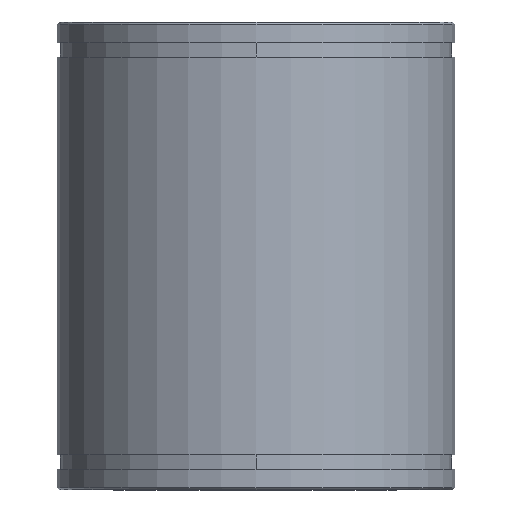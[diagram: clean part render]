
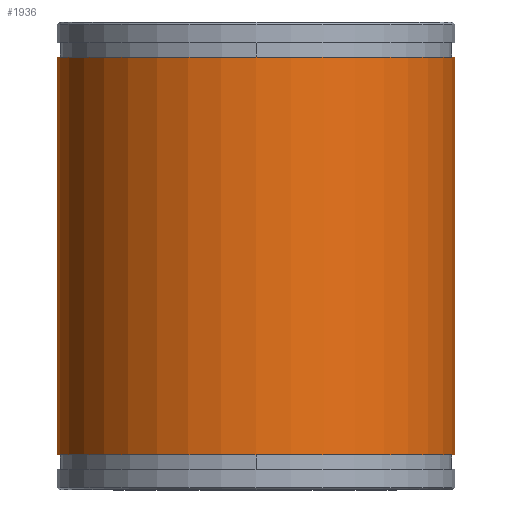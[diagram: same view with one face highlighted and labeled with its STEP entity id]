
A CAD part, front view. The second image highlights one B-rep face of the part: STEP entity #1936.
In plain terms, the highlighted cylindrical face has radius 42.5 mm (diameter 85 mm), a partial arc.
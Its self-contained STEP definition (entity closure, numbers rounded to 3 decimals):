
#333=CARTESIAN_POINT('',(0.,0.,7.5));
#334=DIRECTION('',(0.,0.,-1.));
#335=DIRECTION('',(1.,0.,0.));
#336=AXIS2_PLACEMENT_3D('',#333,#334,#335);
#338=DIRECTION('',(0.,0.,-1.));
#339=VECTOR('',#338,85.);
#340=CARTESIAN_POINT('',(-42.5,0.,92.5));
#341=LINE('',#340,#339);
#342=CARTESIAN_POINT('',(0.,0.,92.5));
#343=DIRECTION('',(0.,0.,1.));
#344=DIRECTION('',(-1.,0.,0.));
#345=AXIS2_PLACEMENT_3D('',#342,#343,#344);
#347=DIRECTION('',(0.,0.,-1.));
#348=VECTOR('',#347,85.);
#349=CARTESIAN_POINT('',(42.5,0.,92.5));
#350=LINE('',#349,#348);
#1797=CARTESIAN_POINT('',(-42.5,0.,7.5));
#1798=CARTESIAN_POINT('',(42.5,0.,7.5));
#1799=VERTEX_POINT('',#1797);
#1800=VERTEX_POINT('',#1798);
#1809=CARTESIAN_POINT('',(42.5,0.,92.5));
#1810=CARTESIAN_POINT('',(-42.5,0.,92.5));
#1811=VERTEX_POINT('',#1809);
#1812=VERTEX_POINT('',#1810);
#1921=CARTESIAN_POINT('',(0.,0.,-5.));
#1922=DIRECTION('',(0.,0.,1.));
#1923=DIRECTION('',(-1.,0.,0.));
#1924=AXIS2_PLACEMENT_3D('',#1921,#1922,#1923);
#1925=CYLINDRICAL_SURFACE('',#1924,42.5);
#1927=ORIENTED_EDGE('',*,*,#1926,.T.);
#1929=ORIENTED_EDGE('',*,*,#1928,.F.);
#1931=ORIENTED_EDGE('',*,*,#1930,.T.);
#1933=ORIENTED_EDGE('',*,*,#1932,.T.);
#1934=EDGE_LOOP('',(#1927,#1929,#1931,#1933));
#1935=FACE_OUTER_BOUND('',#1934,.F.);
#1936=ADVANCED_FACE('',(#1935),#1925,.T.);
#337=CIRCLE('',#336,42.5);
#346=CIRCLE('',#345,42.5);
#1926=EDGE_CURVE('',#1800,#1799,#337,.T.);
#1928=EDGE_CURVE('',#1812,#1799,#341,.T.);
#1930=EDGE_CURVE('',#1812,#1811,#346,.T.);
#1932=EDGE_CURVE('',#1811,#1800,#350,.T.);
